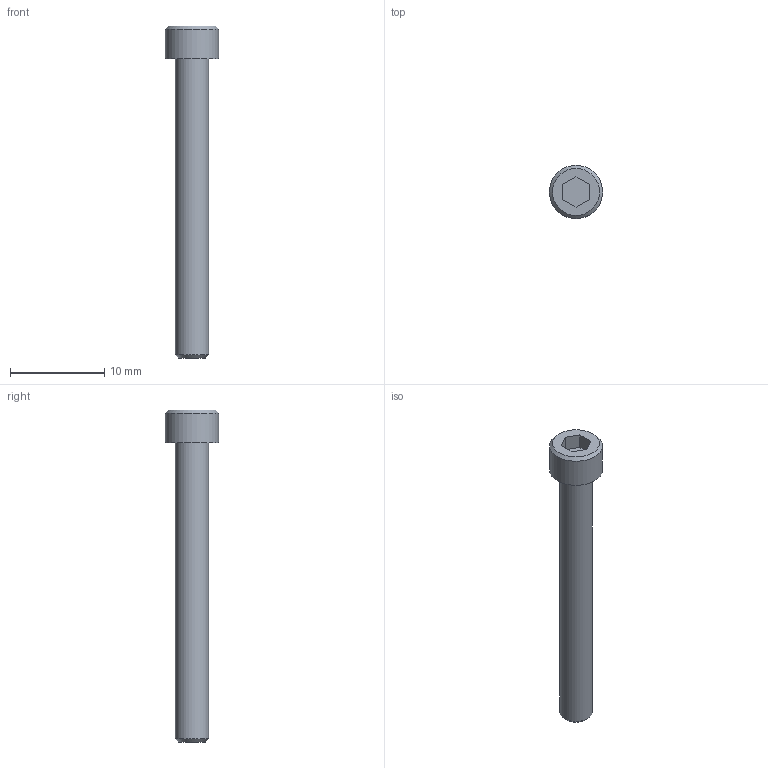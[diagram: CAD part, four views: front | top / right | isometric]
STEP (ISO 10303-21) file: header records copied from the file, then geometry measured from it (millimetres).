
FILE_DESCRIPTION((''),'2;1');
FILE_NAME('C:\Users\Stan\Desktop\import\SHCS 6-32 UNCx1.25.ipt.step','2011-08-18T17:44:46',(''),(''),'Autodesk Inventor 2012','Autodesk Inventor 2012','');
FILE_SCHEMA(('AUTOMOTIVE_DESIGN { 1 0 10303 214 1 1 1 1 }'));
Length unit declared in the file: inch
Products named in the file (1): SHCS 6-32 UNCx1.25
Bounding box: 5.64 x 5.64 x 35.2 mm (x, y, z)
Volume: 380.4 mm3; surface area: 470.5 mm2
Topology: 1 solids, 1 shells, 14 faces, 28 edges, 18 vertices
Faces by surface type: plane 10, cone 2, cylinder 2
Full cylindrical faces by diameter (mm): 3.505 x1, 5.639 x1
Entity records: 391 total; most frequent: DIRECTION 60, CARTESIAN_POINT 57, ORIENTED_EDGE 48, EDGE_CURVE 24, AXIS2_PLACEMENT_3D 21, EDGE_LOOP 20, VERTEX_POINT 18, VECTOR 18
